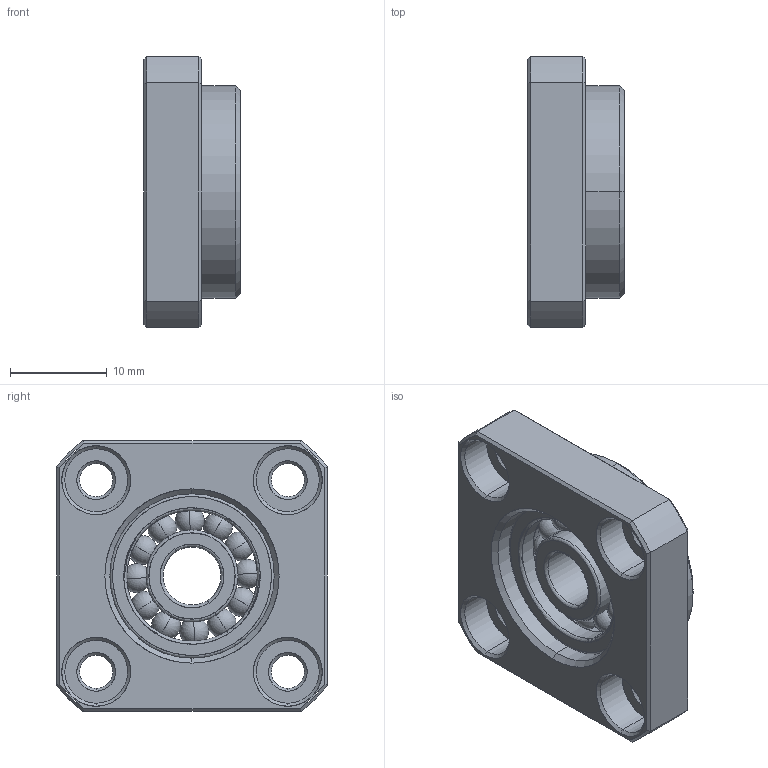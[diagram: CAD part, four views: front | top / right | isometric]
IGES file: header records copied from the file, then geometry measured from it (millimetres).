
Start section: SolidWorks IGES file using analytic representation for surfaces
Bounding box: 10 x 28 x 28 mm (x, y, z)
Surface area: 3820 mm2 (no closed solid volume)
Topology: 0 solids, 0 shells, 137 faces, 1424 edges, 1376 vertices
Faces by surface type: revolution 96, bspline 41
